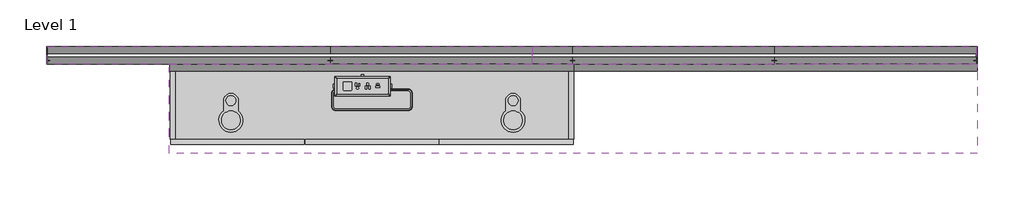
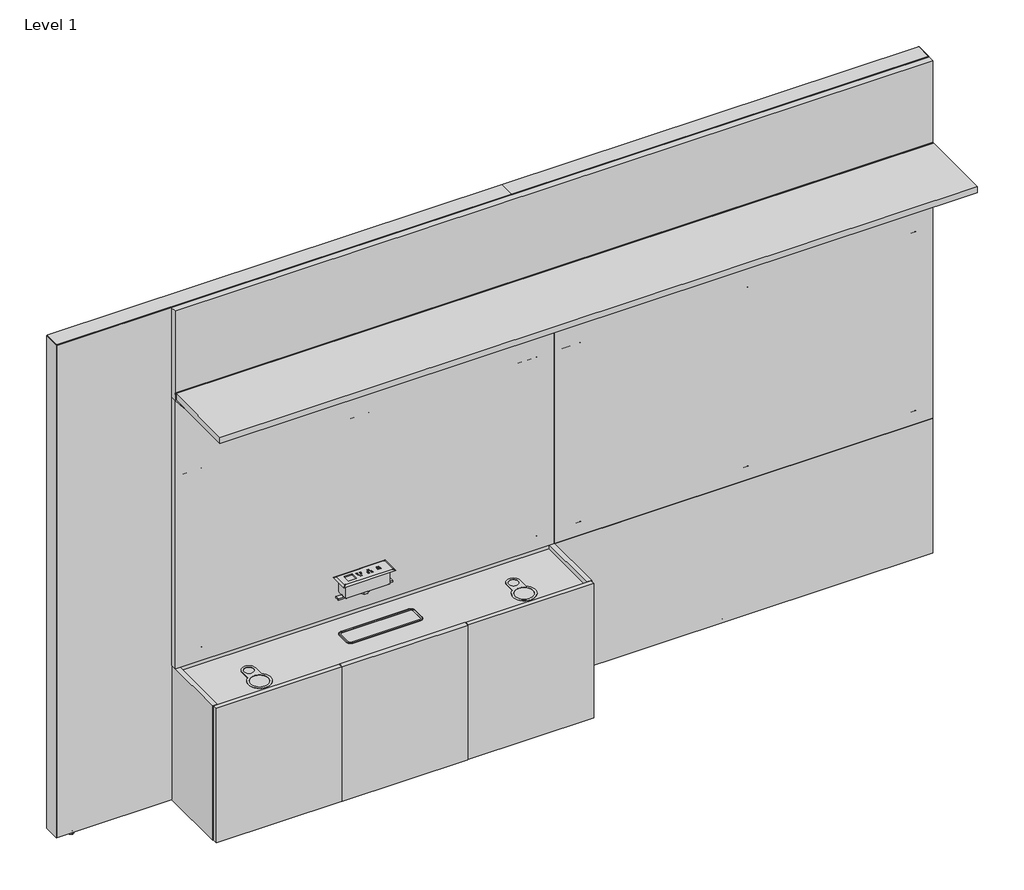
# One storey, incomplete: 18 furniture elements.
"""IFC4 building model written with IfcOpenShell, lengths in millimetres."""

from ifc_helpers import new_model, si_unit, origin, place, context, project, spatial, transform, mapped, element, save
from components import furniture_ab4901f7, furniture_62f48795, furniture_67171f7c, furniture_f40e33f1, furniture_9a9e18b9, furniture_a181dc65, furniture_4b2f0f66, furniture_52d22a10, furniture_4866d010, furniture_ee5a0780, in_surface_33791ff7

model = new_model("IFC4")

# Units and contexts
model_context = context("Model", 3, world=origin())
ifc_project = project(units=[si_unit("LENGTHUNIT", "METRE", prefix="MILLI")], contexts=[model_context])

# Site, building, storey
site = spatial("IfcSite", under=ifc_project)
building = spatial("IfcBuilding", under=site)
storey = spatial("IfcBuildingStorey", under=building, Name="Level 1", Elevation=0.0)

# Furniture
placement = place(None, origin())
furniture_shape = furniture_ab4901f7(model_context)
element("IfcFurniture", 1, ObjectType="Geiger_GeigerOneCasegoods_WallFrameStandardApplication : 30Wx1Dx82.5H", at=placement, inside=storey, context=model_context, shape_type="MappedRepresentation", body=[
    mapped(furniture_shape, transform((3504.961117, 2926.6579345, 0.0), x_axis=(1.0, 0.0, 0.0), y_axis=(0.0, 1.0, 0.0), z_axis=(0.0, 0.0, 1.0))),
])
element("IfcFurniture", 2, ObjectType="Geiger_GeigerOneCasegoods_WallFrameStandardApplication : 30Wx1Dx82.5H", at=placement, inside=storey, context=model_context, shape_type="MappedRepresentation", body=[
    mapped(furniture_shape, transform((4266.961117, 2926.6579345, 0.0), x_axis=(1.0, 0.0, 0.0), y_axis=(0.0, 1.0, 0.0), z_axis=(0.0, 0.0, 1.0))),
])
element("IfcFurniture", 3, ObjectType="Geiger_GeigerOneCasegoods_WallFrameStandardApplication : 30Wx1Dx82.5H", at=placement, inside=storey, context=model_context, shape_type="MappedRepresentation", body=[
    mapped(furniture_shape, transform((3504.961117, 2966.8223634, 0.0), x_axis=(1.0, 0.0, 0.0), y_axis=(0.0, 1.0, 0.0), z_axis=(0.0, 0.0, 1.0))),
])
element("IfcFurniture", 4, ObjectType="Geiger_GeigerOneCasegoods_WallFrameStandardApplication : 30Wx1Dx82.5H", at=placement, inside=storey, context=model_context, shape_type="MappedRepresentation", body=[
    mapped(furniture_shape, transform((4266.961117, 2966.8223634, 0.0), x_axis=(1.0, 0.0, 0.0), y_axis=(0.0, 1.0, 0.0), z_axis=(0.0, 0.0, 1.0))),
])
furniture_2_shape = furniture_62f48795(model_context)
element("IfcFurniture", 5, ObjectType="Geiger_GeigerOneCasegoods_WallFrameStandardApplication : 36Wx1Dx82.5H", at=placement, inside=storey, context=model_context, shape_type="MappedRepresentation", body=[
    mapped(furniture_2_shape, transform((2590.561117, 2926.6579345, 0.0), x_axis=(1.0, 0.0, 0.0), y_axis=(0.0, 1.0, 0.0), z_axis=(0.0, 0.0, 1.0))),
])
element("IfcFurniture", 6, ObjectType="Geiger_GeigerOneCasegoods_WallFrameStandardApplication : 36Wx1Dx82.5H", at=placement, inside=storey, context=model_context, shape_type="MappedRepresentation", body=[
    mapped(furniture_2_shape, transform((2590.561117, 2966.8223634, 0.0), x_axis=(1.0, 0.0, 0.0), y_axis=(0.0, 1.0, 0.0), z_axis=(0.0, 0.0, 1.0))),
])
furniture_3_shape = furniture_67171f7c(model_context)
element("IfcFurniture", 7, ObjectType="Geiger_GeigerOneCasegoods_WallFrameStandardApplication : 42Wx1Dx82.5H", at=placement, inside=storey, context=model_context, shape_type="MappedRepresentation", body=[
    mapped(furniture_3_shape, transform((1523.761117, 2926.6579345, 0.0), x_axis=(1.0, 0.0, 0.0), y_axis=(0.0, 1.0, 0.0), z_axis=(0.0, 0.0, 1.0))),
])
element("IfcFurniture", 8, ObjectType="Geiger_GeigerOneCasegoods_WallFrameStandardApplication : 42Wx1Dx82.5H", at=placement, inside=storey, context=model_context, shape_type="MappedRepresentation", body=[
    mapped(furniture_3_shape, transform((1523.761117, 2966.8223634, 0.0), x_axis=(1.0, 0.0, 0.0), y_axis=(0.0, 1.0, 0.0), z_axis=(0.0, 0.0, 1.0))),
])
furniture_4_shape = furniture_f40e33f1(model_context)
element("IfcFurniture", 9, ObjectType="Geiger_GeigerOneCasegoods_WallTopTrimSingleSidedWall : 72Wx2.625Dx0.125H", at=placement, inside=storey, context=model_context, shape_type="MappedRepresentation", body=[
    mapped(furniture_4_shape, transform((1523.761117, 2933.6579345, 2108.708), x_axis=(1.0, 0.0, 0.0), y_axis=(0.0, 1.0, 0.0), z_axis=(0.0, 0.0, 1.0))),
])
furniture_5_shape = furniture_9a9e18b9(model_context)
element("IfcFurniture", 10, ObjectType="Geiger_GeigerOneCasegoods_WallEndTrim : Geiger_GeigerOneCasegoods_WallEndTrim", at=placement, inside=storey, context=model_context, shape_type="MappedRepresentation", body=[
    mapped(furniture_5_shape, transform((1520.586117, 2933.7735768, 12.7), x_axis=(1.0, 0.0, 0.0), y_axis=(0.0, 1.0, 0.0), z_axis=(0.0, 0.0, 1.0))),
])
element("IfcFurniture", 11, ObjectType="Geiger_GeigerOneCasegoods_WallEndTrim : Geiger_GeigerOneCasegoods_WallEndTrim", at=placement, inside=storey, context=model_context, shape_type="MappedRepresentation", body=[
    mapped(furniture_5_shape, transform((5028.961117, 2933.7735768, 12.7), x_axis=(1.0, 0.0, 0.0), y_axis=(0.0, 1.0, 0.0), z_axis=(0.0, 0.0, 1.0))),
])
furniture_6_shape = furniture_a181dc65(model_context)
element("IfcFurniture", 12, ObjectType="Geiger_GeigerOneCasegoods_WallTopTrimSingleSidedWall : 66Wx2.625Dx0.125H", at=placement, inside=storey, context=model_context, shape_type="MappedRepresentation", body=[
    mapped(furniture_6_shape, transform((3352.561117, 2933.6579345, 2108.708), x_axis=(1.0, 0.0, 0.0), y_axis=(0.0, 1.0, 0.0), z_axis=(0.0, 0.0, 1.0))),
])
furniture_7_shape = furniture_4b2f0f66(model_context)
element("IfcFurniture", 13, ObjectType="Geiger_GeigerOneCasegoods_OverheadStorageSingleShelfFullBackPanel : Horizontal Veneer 120Wx 13.375Dx 14.875H", at=placement, inside=storey, context=model_context, shape_type="MappedRepresentation", body=[
    mapped(furniture_7_shape, transform((1984.5438935, 2906.6796381, 1728.724), x_axis=(1.0, 0.0, 0.0), y_axis=(0.0, 1.0, 0.0), z_axis=(0.0, 0.0, 1.0))),
])
furniture_8_shape = furniture_52d22a10(model_context)
element("IfcFurniture", 14, ObjectType="Geiger_GeigerOneCasegoods_WallTileAcceptsTileAbove : Horizontal Veneer 60Wx 1.25Dx 22.5H", at=placement, inside=storey, context=model_context, shape_type="MappedRepresentation", body=[
    mapped(furniture_8_shape, transform((3509.3535437, 2899.5700615, 12.7), x_axis=(1.0, 0.0, 0.0), y_axis=(0.0, 1.0, 0.0), z_axis=(0.0, 0.0, 1.0))),
])
furniture_9_shape = furniture_4866d010(model_context)
element("IfcFurniture", 15, ObjectType="Geiger_GeigerOneCasegoods_WallTileAcceptsTileAboveFabric : RR Fabric 60Wx 1.25Dx 45H", at=placement, inside=storey, context=model_context, shape_type="MappedRepresentation", body=[
    mapped(furniture_9_shape, transform((3509.1906317, 2906.8943056, 585.1906), x_axis=(1.0, 0.0, 0.0), y_axis=(0.0, 1.0, 0.0), z_axis=(0.0, 0.0, 1.0))),
])
element("IfcFurniture", 16, ObjectType="Geiger_GeigerOneCasegoods_WallTileAcceptsTileAboveFabric : RR Fabric 60Wx 1.25Dx 45H", at=placement, inside=storey, context=model_context, shape_type="MappedRepresentation", body=[
    mapped(furniture_9_shape, transform((1985.1906317, 2906.8943056, 585.1906), x_axis=(1.0, 0.0, 0.0), y_axis=(0.0, 1.0, 0.0), z_axis=(0.0, 0.0, 1.0))),
])
furniture_10_shape = furniture_ee5a0780(model_context)
element("IfcFurniture", 17, ObjectType="Geiger_GeigerOneCasegoods_UtilityCabinetForUseWithCredenzaDeskAccepts2Legs : Geiger_GeigerOneCasegoods_UtilityCabinetForUseWithCredenzaDeskAccepts2Legs", at=placement, inside=storey, context=model_context, shape_type="MappedRepresentation", body=[
    mapped(furniture_10_shape, transform((1986.5827667, 2900.6579345, 0.0), x_axis=(1.0, 0.0, 0.0), y_axis=(0.0, 1.0, 0.0), z_axis=(0.0, 0.0, 1.0))),
])
in_surface_shape = in_surface_33791ff7(model_context)
element("IfcFurniture", 18, ObjectType="Geiger_GeigerOneCasegoods_PowerComponent2PowerOutlets1USBA1USBC : In Surface", at=placement, inside=storey, context=model_context, shape_type="MappedRepresentation", body=[
    mapped(in_surface_shape, transform((2713.1589278, 2817.1704901, 769.5946), x_axis=(1.0, 0.0, 0.0), y_axis=(0.0, 1.0, 0.0), z_axis=(0.0, 0.0, 1.0))),
])

save(model, "model.ifc")
